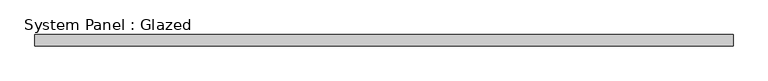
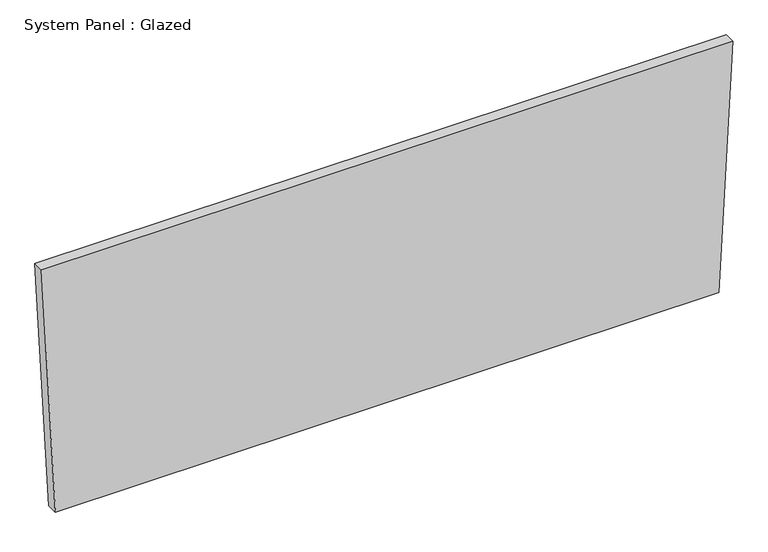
"""IFC4 building model written with IfcOpenShell, lengths in millimetres: plate geometry, System Panel : Glazed."""

from ifc_helpers import new_model, si_unit, frame, origin, place, context, project, spatial, polyline, outline, extrude, source, transform, mapped, element, save


def system_panel_glazed_a392d462(model_context):
    return source(origin(), model_context, "Body", "SweptSolid", [
        extrude(outline(polyline([(0.0, -741.926752), (0.0, 741.926752), (583.3481362, 772.7984812), (583.3481362, -772.7984812), (0.0, -741.926752)])), frame((0.0, 19.05, 0.0), z_axis=(0.0, 1.0, 0.0), x_axis=(0.0, 0.0, 1.0)), (0.0, 0.0, 1.0), 25.4),
    ])


if __name__ == "__main__":
    model = new_model("IFC4")
    model_context = context("Model", 3, world=origin())
    ifc_project = project(units=[si_unit("LENGTHUNIT", "METRE", prefix="MILLI")], contexts=[model_context])
    site = spatial("IfcSite", under=ifc_project)
    building = spatial("IfcBuilding", under=site)
    placement = place(None, origin())
    system_panel_glazed_shape = system_panel_glazed_a392d462(model_context)
    element("IfcPlate", 1, ObjectType="System Panel : Glazed", at=placement, inside=building, context=model_context, shape_type="MappedRepresentation", body=[
        mapped(system_panel_glazed_shape, transform((0.0, 0.0, 0.0), x_axis=(1.0, 0.0, 0.0), y_axis=(0.0, 1.0, 0.0), z_axis=(0.0, 0.0, 1.0))),
    ])
    save(model, "model.ifc")
